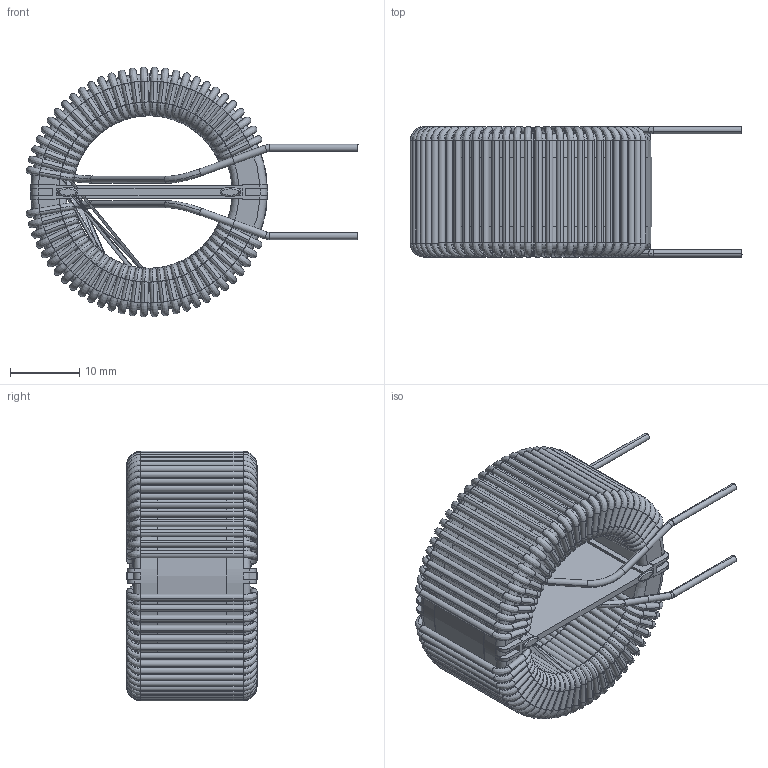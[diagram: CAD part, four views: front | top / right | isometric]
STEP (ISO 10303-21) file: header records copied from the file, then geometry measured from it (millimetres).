
FILE_DESCRIPTION (( 'STEP AP203' ), '1' );
FILE_NAME ('HN-V-423U-5A.STEP', '2020-06-30T13:36:10', ( 'Windows User' ), ( '' ), 'SwSTEP 2.0', 'SolidWorks 2015', '' );
FILE_SCHEMA (( 'CONFIG_CONTROL_DESIGN' ));
Length unit declared in the file: millimetre
Products named in the file (1): HN-V-423U-5A
Bounding box: 47.84 x 18.85 x 35.98 mm (x, y, z)
Volume: 9333.3 mm3; surface area: 16150.3 mm2
Topology: 12 solids, 13 shells, 1514 faces, 4735 edges, 3245 vertices
Faces by surface type: cylinder 671, bspline 289, plane 286, torus 268
Full cylindrical faces by diameter (mm): 1.02 x1
Entity records: 75529 total; most frequent: CARTESIAN_POINT 35816, ORIENTED_EDGE 9466, DIRECTION 7917, EDGE_CURVE 4733, AXIS2_PLACEMENT_3D 3454, VERTEX_POINT 3242, CIRCLE 2228, EDGE_LOOP 1517
